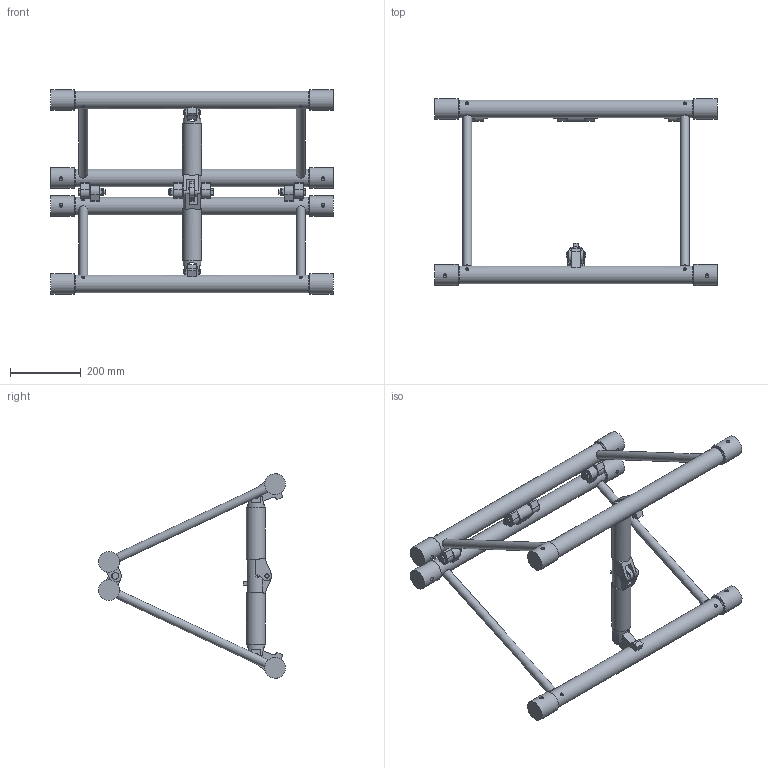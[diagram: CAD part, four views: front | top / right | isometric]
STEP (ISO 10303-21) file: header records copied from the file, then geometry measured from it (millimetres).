
FILE_DESCRIPTION(/* description */ (''),/* implementation_level */ '2;1');
FILE_NAME(/* name */ 'M:\Symbolen_NIEUW\STP\52-er truss\S52F\S52F-L080_111110082.stp',/* time_stamp */ '2017-11-10T13:49:13+01:00',/* author */ ('Kees'),/* organization */ (''),/* preprocessor_version */ 'ST-DEVELOPER v16.13',/* originating_system */ 'Autodesk Inventor 2018',/* authorisation */ '');
FILE_SCHEMA (('AUTOMOTIVE_DESIGN { 1 0 10303 214 3 1 1 }'));
Length unit declared in the file: millimetre
Products named in the file (1): 260008491
Bounding box: 800 x 528.69 x 578.8 mm (x, y, z)
Volume: 8893738.1 mm3; surface area: 912312.1 mm2
Topology: 31 solids, 31 shells, 500 faces, 1159 edges, 759 vertices
Faces by surface type: plane 283, cylinder 152, cone 65
Full cylindrical faces by diameter (mm): 10 x8, 12 x10, 12.5 x7, 12.8 x4, 13 x8, 17.4 x6, 24 x4, 25 x4, 50 x6, 54 x2, 58.8 x8
Entity records: 15307 total; most frequent: CARTESIAN_POINT 4070, DIRECTION 2185, ORIENTED_EDGE 2092, EDGE_CURVE 1046, AXIS2_PLACEMENT_3D 851, VERTEX_POINT 748, EDGE_LOOP 686, LINE 483
